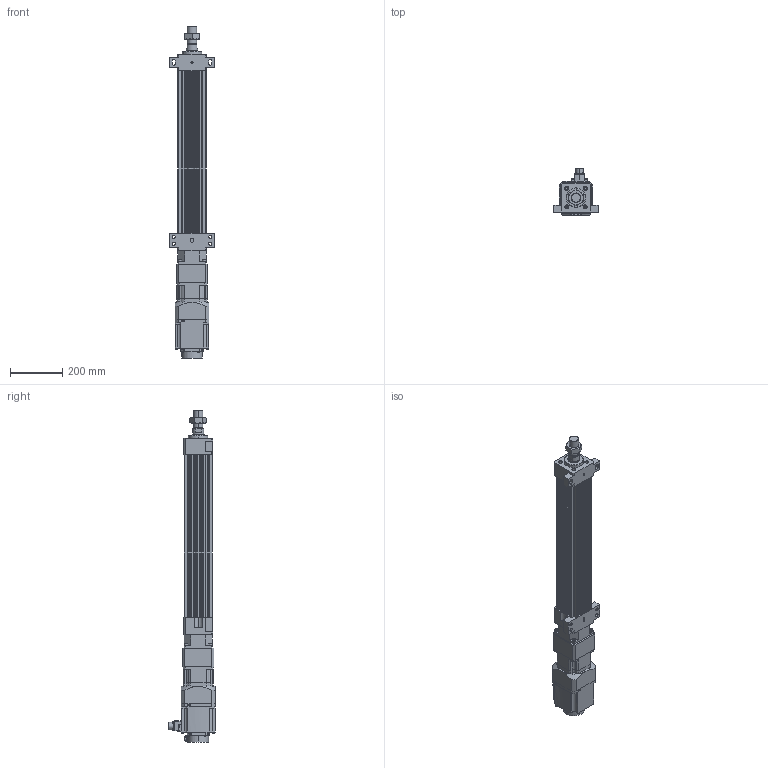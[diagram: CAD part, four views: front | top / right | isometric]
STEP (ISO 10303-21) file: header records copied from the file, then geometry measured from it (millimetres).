
FILE_DESCRIPTION (( 'STEP AP203' ), '1' );
FILE_NAME ('HES110NS(HS)-S450-W015G00-M-FFB.STEP', '2023-01-27T12:05:21', ( 'tms' ), ( '' ), 'SwSTEP 2.0', 'SolidWorks 2013', '' );
FILE_SCHEMA (( 'CONFIG_CONTROL_DESIGN' ));
Length unit declared in the file: millimetre
Products named in the file (8): AB115-003[HG-SR152]; HG-SR152; P0401400706; AB1151; M36X1.5P; HES110NS(HS)-S450-W015G00-M-FFB; HES110-S450-G120-FFB; HES110 ROD M ST450
Assembly tree (7 placements, depth 3):
  HES110NS(HS)-S450-W015G00-M-FFB
    HES110-S450-G120-FFB
    HES110 ROD M ST450
    M36X1.5P
    AB115-003[HG-SR152]
      AB1151
      P0401400706
    HG-SR152
Bounding box: 170 x 177.49 x 1271.5 mm (x, y, z)
Volume: 8225161.8 mm3; surface area: 1151727.6 mm2
Topology: 4 solids, 15 shells, 1194 faces, 3023 edges, 1968 vertices
Faces by surface type: plane 571, cylinder 531, cone 80, bspline 8, torus 4
Entity records: 37745 total; most frequent: CARTESIAN_POINT 7162, DIRECTION 6520, ORIENTED_EDGE 5998, EDGE_CURVE 3009, AXIS2_PLACEMENT_3D 2386, VERTEX_POINT 1968, VECTOR 1748, LINE 1748
